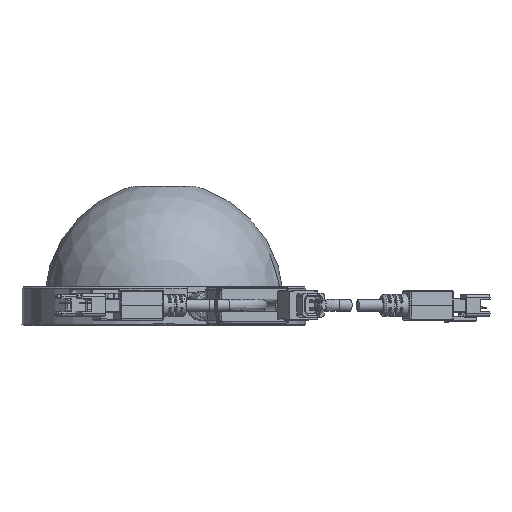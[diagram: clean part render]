
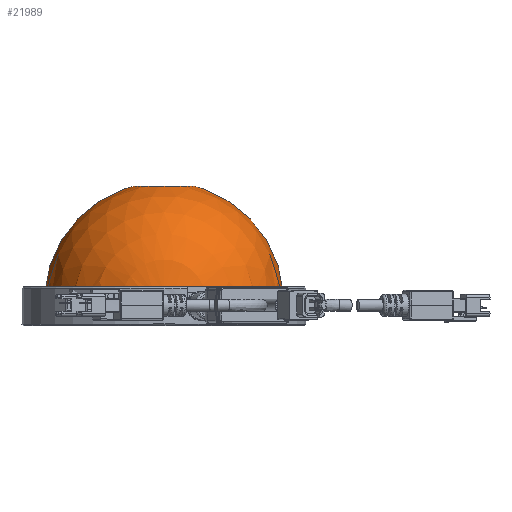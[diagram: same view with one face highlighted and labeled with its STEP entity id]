
A CAD part, top view. The second image highlights one B-rep face of the part: STEP entity #21989.
In plain terms, the highlighted spherical face has radius 40 mm.
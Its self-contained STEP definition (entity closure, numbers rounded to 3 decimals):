
#375 = CIRCLE ( 'NONE', #28254, 10. ) ;
#5179 = DIRECTION ( 'NONE',  ( 1., 0., 0. ) ) ;
#6261 = EDGE_CURVE ( 'NONE', #28003, #28003, #16679, .T. ) ;
#6904 = ORIENTED_EDGE ( 'NONE', *, *, #6261, .T. ) ;
#7396 = CARTESIAN_POINT ( 'NONE',  ( 10., 42.73, 0. ) ) ;
#7903 = DIRECTION ( 'NONE',  ( 0., 1., 0. ) ) ;
#12436 = DIRECTION ( 'NONE',  ( 0., 0., 1. ) ) ;
#16608 = EDGE_LOOP ( 'NONE', ( #6904 ) ) ;
#16679 = CIRCLE ( 'NONE', #29612, 39.887 ) ;
#19010 = ORIENTED_EDGE ( 'NONE', *, *, #19792, .F. ) ;
#19792 = EDGE_CURVE ( 'NONE', #27086, #27086, #375, .T. ) ;
#20384 = AXIS2_PLACEMENT_3D ( 'NONE', #26397, #12436, #20860 ) ;
#20860 = DIRECTION ( 'NONE',  ( -1., 0., 0. ) ) ;
#21009 = FACE_OUTER_BOUND ( 'NONE', #16608, .T. ) ;
#21579 = EDGE_LOOP ( 'NONE', ( #19010 ) ) ;
#21989 = ADVANCED_FACE ( 'NONE', ( #22339, #21009 ), #23702, .T. ) ;
#22339 = FACE_OUTER_BOUND ( 'NONE', #21579, .T. ) ;
#22732 = CARTESIAN_POINT ( 'NONE',  ( 0., 7., 0. ) ) ;
#23702 = SPHERICAL_SURFACE ( 'NONE', #20384, 40. ) ;
#26397 = CARTESIAN_POINT ( 'NONE',  ( 0., 4., 0. ) ) ;
#27086 = VERTEX_POINT ( 'NONE', #7396 ) ;
#28003 = VERTEX_POINT ( 'NONE', #31479 ) ;
#28254 = AXIS2_PLACEMENT_3D ( 'NONE', #35898, #7903, #5179 ) ;
#29612 = AXIS2_PLACEMENT_3D ( 'NONE', #22732, #30909, #30655 ) ;
#30655 = DIRECTION ( 'NONE',  ( 1., 0., 0. ) ) ;
#30909 = DIRECTION ( 'NONE',  ( 0., 1., 0. ) ) ;
#31479 = CARTESIAN_POINT ( 'NONE',  ( 39.887, 7., 0. ) ) ;
#35898 = CARTESIAN_POINT ( 'NONE',  ( 0., 42.73, 0. ) ) ;
